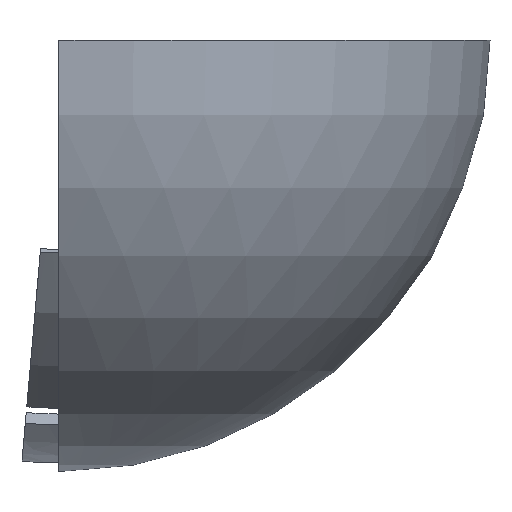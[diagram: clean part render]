
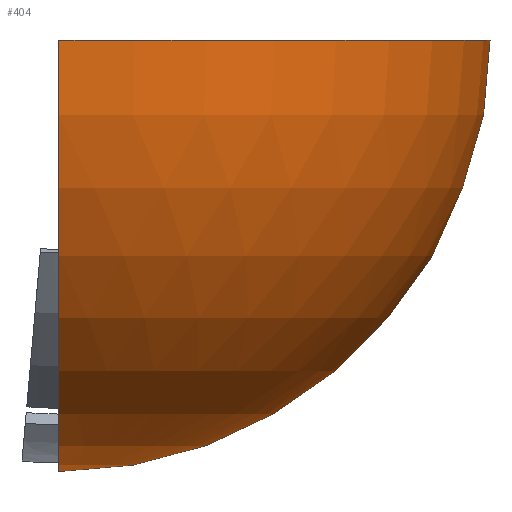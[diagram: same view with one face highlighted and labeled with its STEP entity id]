
A CAD part, front view. The second image highlights one B-rep face of the part: STEP entity #404.
In plain terms, the highlighted spherical face has radius 165 mm.
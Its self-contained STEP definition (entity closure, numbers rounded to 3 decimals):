
#35=SPHERICAL_SURFACE('',#477,165.);
#57=FACE_OUTER_BOUND('',#82,.T.);
#82=EDGE_LOOP('',(#344,#345,#346));
#125=CIRCLE('',#478,165.);
#126=CIRCLE('',#479,165.);
#127=CIRCLE('',#480,165.);
#201=VERTEX_POINT('',#752);
#202=VERTEX_POINT('',#753);
#203=VERTEX_POINT('',#755);
#255=EDGE_CURVE('',#201,#202,#125,.T.);
#256=EDGE_CURVE('',#203,#202,#126,.T.);
#257=EDGE_CURVE('',#201,#203,#127,.T.);
#344=ORIENTED_EDGE('',*,*,#255,.T.);
#345=ORIENTED_EDGE('',*,*,#256,.F.);
#346=ORIENTED_EDGE('',*,*,#257,.F.);
#404=ADVANCED_FACE('',(#57),#35,.T.);
#477=AXIS2_PLACEMENT_3D('',#751,#612,#613);
#478=AXIS2_PLACEMENT_3D('',#754,#614,#615);
#479=AXIS2_PLACEMENT_3D('',#756,#616,#617);
#480=AXIS2_PLACEMENT_3D('',#757,#618,#619);
#612=DIRECTION('center_axis',(0.,0.,1.));
#613=DIRECTION('ref_axis',(1.,0.,0.));
#614=DIRECTION('center_axis',(1.,0.,0.));
#615=DIRECTION('ref_axis',(0.,-1.,0.));
#616=DIRECTION('center_axis',(-0.5,0.866,0.));
#617=DIRECTION('ref_axis',(0.866,0.5,0.));
#618=DIRECTION('center_axis',(0.,0.,1.));
#619=DIRECTION('ref_axis',(0.,-1.,0.));
#751=CARTESIAN_POINT('Origin',(0.,0.,0.));
#752=CARTESIAN_POINT('',(0.,-165.,0.));
#753=CARTESIAN_POINT('',(0.,0.,-165.));
#754=CARTESIAN_POINT('Origin',(0.,0.,0.));
#755=CARTESIAN_POINT('',(142.894,82.5,0.));
#756=CARTESIAN_POINT('Origin',(0.,0.,0.));
#757=CARTESIAN_POINT('Origin',(0.,0.,
0.));
